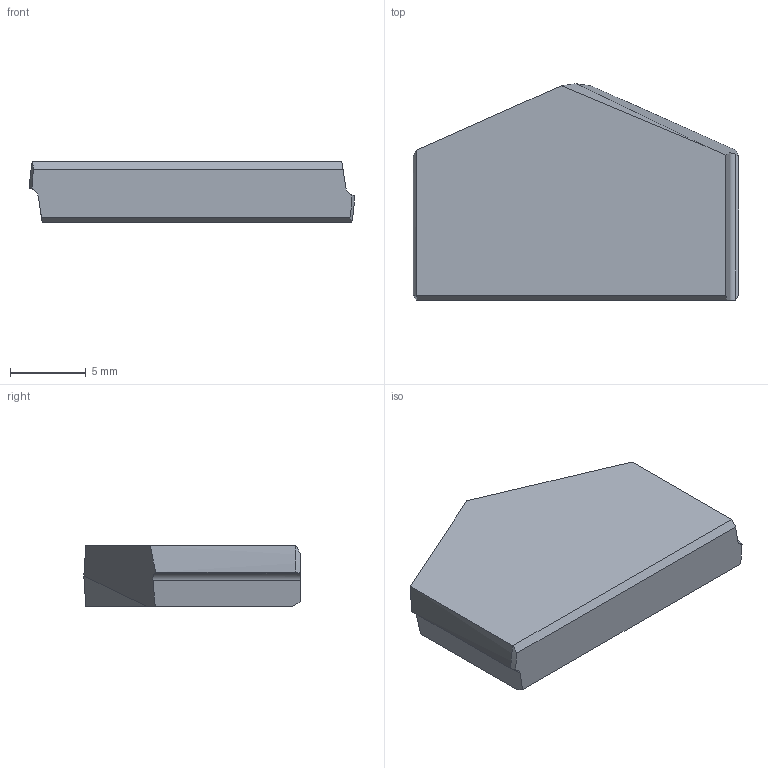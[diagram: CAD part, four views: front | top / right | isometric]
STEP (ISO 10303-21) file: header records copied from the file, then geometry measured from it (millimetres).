
FILE_DESCRIPTION (( 'STEP AP214' ), '1' );
FILE_NAME ('27-32.STEP', '2022-06-24T05:44:57', ( '' ), ( '' ), 'SwSTEP 2.0', 'SolidWorks 2018', '' );
FILE_SCHEMA (( 'AUTOMOTIVE_DESIGN' ));
Length unit declared in the file: millimetre
Products named in the file (1): 27-32
Bounding box: 21.42 x 14.25 x 4 mm (x, y, z)
Volume: 982.6 mm3; surface area: 734.6 mm2
Topology: 1 solids, 1 shells, 19 faces, 50 edges, 33 vertices
Faces by surface type: plane 13, cylinder 4, cone 2
Entity records: 620 total; most frequent: CARTESIAN_POINT 133, ORIENTED_EDGE 100, DIRECTION 86, EDGE_CURVE 50, LINE 34, VECTOR 34, VERTEX_POINT 33, AXIS2_PLACEMENT_3D 26
